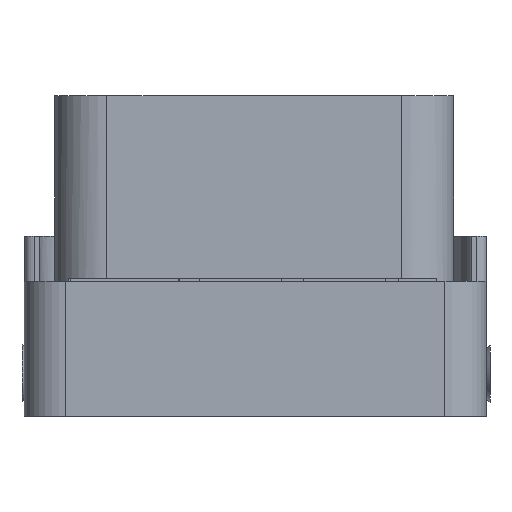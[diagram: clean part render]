
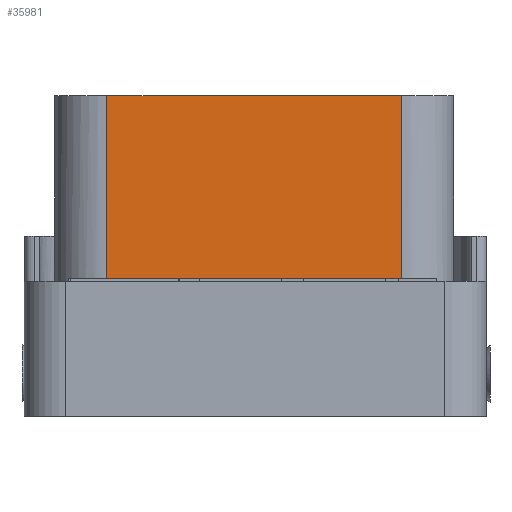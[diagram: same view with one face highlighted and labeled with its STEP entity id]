
A CAD part, left-side view. The second image highlights one B-rep face of the part: STEP entity #35981.
In plain terms, the highlighted planar face has unit normal (-1, 0, 0).
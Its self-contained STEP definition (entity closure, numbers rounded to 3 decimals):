
#1373=FACE_BOUND('',#4612,.T.);
#1374=FACE_BOUND('',#4613,.T.);
#1871=CIRCLE('',#38313,0.75);
#1875=CIRCLE('',#38319,0.75);
#1879=CIRCLE('',#38325,2.);
#1883=CIRCLE('',#38331,2.);
#1885=CIRCLE('',#38335,2.);
#1887=CIRCLE('',#38338,1.75);
#1890=CIRCLE('',#38342,2.);
#1907=CIRCLE('',#38368,1.75);
#2396=FACE_OUTER_BOUND('',#4611,.T.);
#4611=EDGE_LOOP('',(#24354,#24355,#24356,#24357,#24358,#24359,#24360,#24361,
#24362,#24363));
#4612=EDGE_LOOP('',(#24364));
#4613=EDGE_LOOP('',(#24365));
#7112=LINE('',#50183,#11102);
#7132=LINE('',#50311,#11122);
#7137=LINE('',#50327,#11127);
#7138=LINE('',#50328,#11128);
#11102=VECTOR('',#41313,10.);
#11122=VECTOR('',#41409,10.);
#11127=VECTOR('',#41426,10.);
#11128=VECTOR('',#41427,10.);
#15021=VERTEX_POINT('',#50121);
#15025=VERTEX_POINT('',#50133);
#15029=VERTEX_POINT('',#50145);
#15030=VERTEX_POINT('',#50146);
#15036=VERTEX_POINT('',#50173);
#15037=VERTEX_POINT('',#50174);
#15040=VERTEX_POINT('',#50182);
#15042=VERTEX_POINT('',#50188);
#15044=VERTEX_POINT('',#50194);
#15046=VERTEX_POINT('',#50200);
#15074=VERTEX_POINT('',#50310);
#15079=VERTEX_POINT('',#50326);
#18504=EDGE_CURVE('',#15021,#15021,#1871,.T.);
#18510=EDGE_CURVE('',#15025,#15025,#1875,.T.);
#18516=EDGE_CURVE('',#15029,#15030,#1879,.F.);
#18525=EDGE_CURVE('',#15036,#15037,#1883,.T.);
#18529=EDGE_CURVE('',#15040,#15037,#7112,.T.);
#18532=EDGE_CURVE('',#15040,#15042,#1885,.T.);
#18535=EDGE_CURVE('',#15044,#15042,#1887,.T.);
#18542=EDGE_CURVE('',#15044,#15046,#1890,.T.);
#18574=EDGE_CURVE('',#15036,#15029,#1907,.T.);
#18579=EDGE_CURVE('',#15046,#15074,#7132,.T.);
#18587=EDGE_CURVE('',#15079,#15030,#7137,.T.);
#18588=EDGE_CURVE('',#15074,#15079,#7138,.T.);
#24354=ORIENTED_EDGE('',*,*,#18579,.F.);
#24355=ORIENTED_EDGE('',*,*,#18542,.F.);
#24356=ORIENTED_EDGE('',*,*,#18535,.T.);
#24357=ORIENTED_EDGE('',*,*,#18532,.F.);
#24358=ORIENTED_EDGE('',*,*,#18529,.T.);
#24359=ORIENTED_EDGE('',*,*,#18525,.F.);
#24360=ORIENTED_EDGE('',*,*,#18574,.T.);
#24361=ORIENTED_EDGE('',*,*,#18516,.T.);
#24362=ORIENTED_EDGE('',*,*,#18587,.F.);
#24363=ORIENTED_EDGE('',*,*,#18588,.F.);
#24364=ORIENTED_EDGE('',*,*,#18504,.T.);
#24365=ORIENTED_EDGE('',*,*,#18510,.T.);
#34263=PLANE('',#38377);
#35981=ADVANCED_FACE('',(#2396,#1373,#1374),#34263,.T.);
#38313=AXIS2_PLACEMENT_3D('',#50122,#41262,#41263);
#38319=AXIS2_PLACEMENT_3D('',#50134,#41276,#41277);
#38325=AXIS2_PLACEMENT_3D('',#50147,#41290,#41291);
#38331=AXIS2_PLACEMENT_3D('',#50175,#41305,#41306);
#38335=AXIS2_PLACEMENT_3D('',#50189,#41318,#41319);
#38338=AXIS2_PLACEMENT_3D('',#50195,#41325,#41326);
#38342=AXIS2_PLACEMENT_3D('',#50218,#41335,#41336);
#38368=AXIS2_PLACEMENT_3D('',#50301,#41398,#41399);
#38377=AXIS2_PLACEMENT_3D('',#50325,#41424,#41425);
#41262=DIRECTION('center_axis',(1.,0.,0.));
#41263=DIRECTION('ref_axis',(0.,-1.,0.));
#41276=DIRECTION('center_axis',(1.,0.,0.));
#41277=DIRECTION('ref_axis',(0.,-1.,0.));
#41290=DIRECTION('center_axis',(-1.,0.,0.));
#41291=DIRECTION('ref_axis',(0.,0.516,0.856));
#41305=DIRECTION('center_axis',(-1.,0.,0.));
#41306=DIRECTION('ref_axis',(0.,-0.516,0.856));
#41313=DIRECTION('',(0.,-1.,0.));
#41318=DIRECTION('center_axis',(-1.,0.,0.));
#41319=DIRECTION('ref_axis',(0.,0.516,0.856));
#41325=DIRECTION('center_axis',(-1.,0.,0.));
#41326=DIRECTION('ref_axis',(0.,-1.,0.));
#41335=DIRECTION('center_axis',(-1.,0.,0.));
#41336=DIRECTION('ref_axis',(0.,-0.516,0.856));
#41398=DIRECTION('center_axis',(-1.,0.,0.));
#41399=DIRECTION('ref_axis',(0.,-1.,0.));
#41409=DIRECTION('',(0.,0.,1.));
#41424=DIRECTION('center_axis',(-1.,0.,0.));
#41425=DIRECTION('ref_axis',(0.,-1.,0.));
#41426=DIRECTION('',(0.,0.,-1.));
#41427=DIRECTION('',(0.,-1.,0.));
#50121=CARTESIAN_POINT('',(29.31,11.01,10.95));
#50122=CARTESIAN_POINT('Origin',(29.31,10.26,10.95));
#50133=CARTESIAN_POINT('',(29.31,35.01,10.95));
#50134=CARTESIAN_POINT('Origin',(29.31,34.26,10.95));
#50145=CARTESIAN_POINT('',(29.31,8.712,10.133));
#50146=CARTESIAN_POINT('',(29.31,8.16,10.787));
#50147=CARTESIAN_POINT('Origin',(29.31,6.943,9.2));
#50173=CARTESIAN_POINT('',(29.31,11.808,10.133));
#50174=CARTESIAN_POINT('',(29.31,13.577,11.2));
#50175=CARTESIAN_POINT('Origin',(29.31,13.577,9.2));
#50182=CARTESIAN_POINT('',(29.31,30.943,11.2));
#50183=CARTESIAN_POINT('',(29.31,36.944,11.2));
#50188=CARTESIAN_POINT('',(29.31,32.712,10.133));
#50189=CARTESIAN_POINT('Origin',(29.31,30.943,9.2));
#50194=CARTESIAN_POINT('',(29.31,35.808,10.133));
#50195=CARTESIAN_POINT('Origin',(29.31,34.26,10.95));
#50200=CARTESIAN_POINT('',(29.31,36.36,10.787));
#50218=CARTESIAN_POINT('Origin',(29.31,37.577,9.2));
#50301=CARTESIAN_POINT('Origin',(29.31,10.26,10.95));
#50310=CARTESIAN_POINT('',(29.31,36.36,30.72));
#50311=CARTESIAN_POINT('',(29.31,36.36,9.2));
#50325=CARTESIAN_POINT('Origin',(29.31,41.36,9.2));
#50326=CARTESIAN_POINT('',(29.31,8.16,30.72));
#50327=CARTESIAN_POINT('',(29.31,8.16,9.2));
#50328=CARTESIAN_POINT('',(29.31,3.16,30.72));
